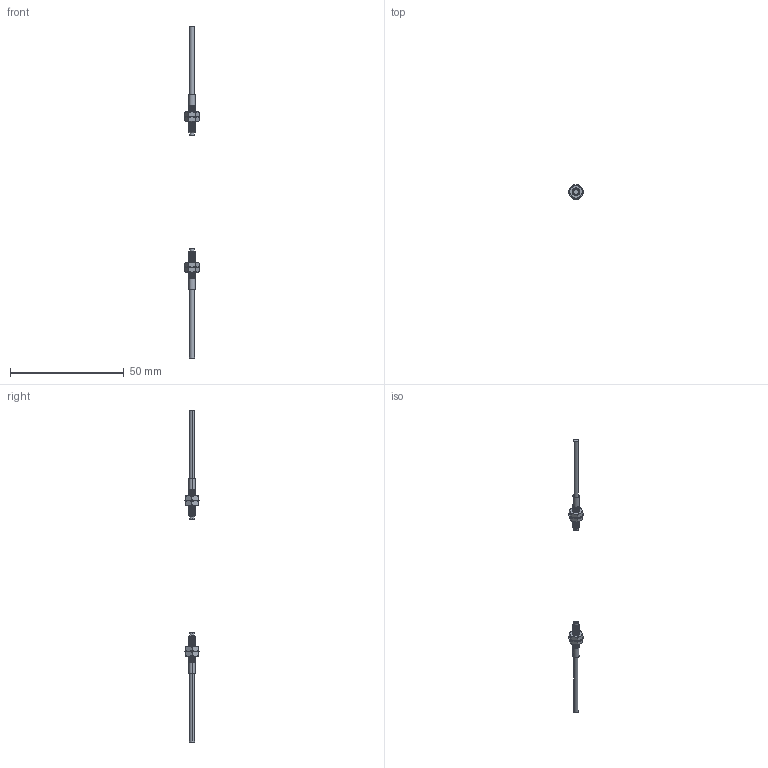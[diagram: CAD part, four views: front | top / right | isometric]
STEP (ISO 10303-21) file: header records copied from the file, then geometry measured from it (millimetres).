
FILE_DESCRIPTION (( 'STEP AP203' ), '1' );
FILE_NAME ('FDT-310.STEP', '2020-11-04T10:03:07', ( '' ), ( '' ), 'SwSTEP 2.0', 'SolidWorks 2020', '' );
FILE_SCHEMA (( 'CONFIG_CONTROL_DESIGN' ));
Length unit declared in the file: millimetre
Products named in the file (7): FDT-310; M3菜え____; FDT-310_T; M3蹟譫x2x2x2; FDT-310_R
Assembly tree (10 placements, depth 3):
  FDT-310
    FDT-310_T
      FDT-310_T
      M3菜え____
      M3蹟譫x2x2x2  x2
    FDT-310_R
      FDT-310_R
      M3菜え____
      M3蹟譫x2x2x2  x2
Bounding box: 6.5 x 6.5 x 146 mm (x, y, z)
Volume: 595.8 mm3; surface area: 1348.8 mm2
Topology: 8 solids, 8 shells, 306 faces, 1626 edges, 1342 vertices
Faces by surface type: cylinder 148, torus 56, plane 46, cone 34, bspline 22
Entity records: 31511 total; most frequent: CARTESIAN_POINT 22246, ORIENTED_EDGE 2694, EDGE_CURVE 1347, VERTEX_POINT 1172, B_SPLINE_CURVE_WITH_KNOTS 1108, DIRECTION 691, AXIS2_PLACEMENT_3D 273, EDGE_LOOP 199
